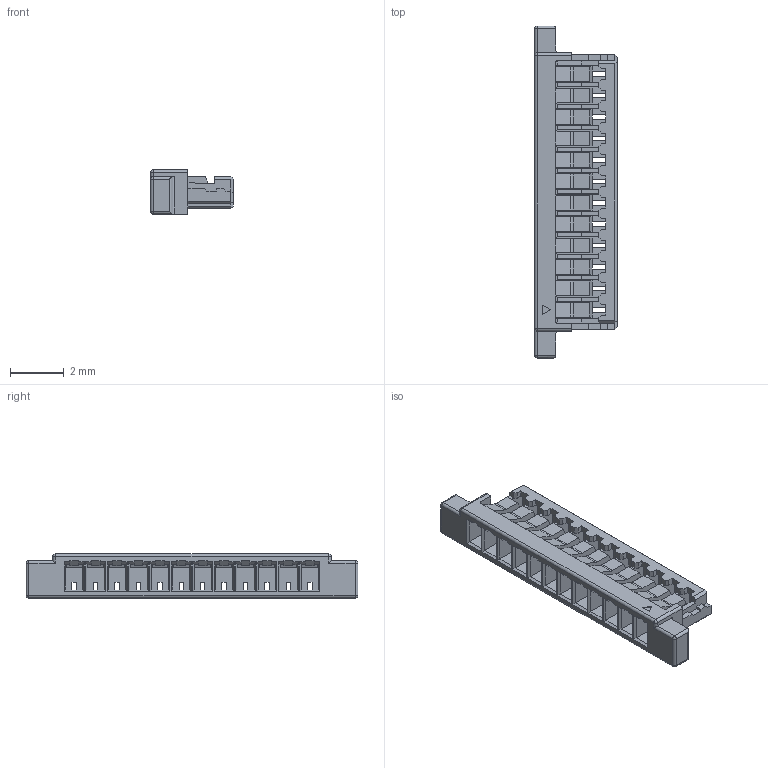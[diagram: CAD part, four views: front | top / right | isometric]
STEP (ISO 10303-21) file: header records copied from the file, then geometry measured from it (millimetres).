
FILE_DESCRIPTION((''),'2;1');
FILE_NAME('ASM0005_ASM','2020-02-25T',('k41758'),(''),'PRO/ENGINEER BY PARAMETRIC TECHNOLOGY CORPORATION, 2009360','PRO/ENGINEER BY PARAMETRIC TECHNOLOGY CORPORATION, 2009360','');
FILE_SCHEMA(('CONFIG_CONTROL_DESIGN'));
Length unit declared in the file: millimetre
Products named in the file (1): ASM0005_ASM
Bounding box: 3.1 x 12.4 x 1.65 mm (x, y, z)
Volume: 22.1 mm3; surface area: 220.4 mm2
Topology: 1 solids, 1 shells, 620 faces, 1721 edges, 1062 vertices
Faces by surface type: plane 558, cylinder 56, sphere 6
Entity records: 19386 total; most frequent: CARTESIAN_POINT 3610, ORIENTED_EDGE 3430, DIRECTION 2999, EDGE_CURVE 1715, VECTOR 1607, LINE 1607, VERTEX_POINT 1062, AXIS2_PLACEMENT_3D 696
